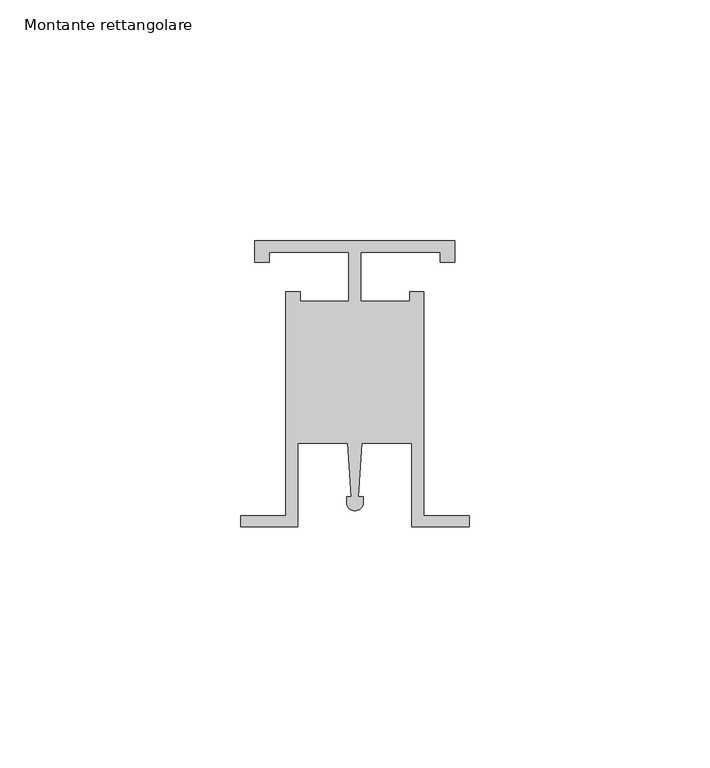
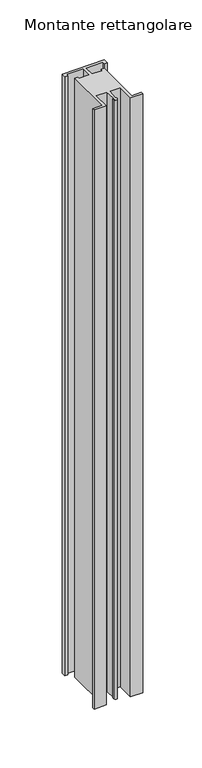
"""IFC4 building model written with IfcOpenShell, lengths in millimetres: member geometry, Montante rettangolare : Verde Profilo's Uprights."""

from ifc_helpers import new_model, si_unit, point, frame, frame_2d, origin, place, context, project, spatial, polyline, circle_curve, trimmed, segment, composite_curve, outline, extrude, source, transform, mapped, element, save


def montante_rettangolare_38dc3529(model_context):
    return source(origin(), model_context, "Body", "SweptSolid", [
        extrude(outline(composite_curve([segment(polyline([(-20.7595941, 0.0), (20.7595941, 0.0), (20.7595941, -4.4643434), (17.7832659, -4.4643434), (17.7832659, -2.4801246), (1.24037, -2.4801246), (1.24037, -12.5992217), (11.3587923, -12.5992217), (11.3587923, -10.6150029), (14.3351204, -10.6150029), (14.3351204, -57.1992491), (23.7595941, -57.1992491), (23.7595941, -59.5229914), (11.8549958, -59.5229914), (11.8549958, -42.1200913), (1.4717512, -42.1200913), (0.7440374, -53.2310496), (1.7376604, -53.2310496), (1.7376604, -54.4070013)]), True, "CONTINUOUS"), segment(trimmed(circle_curve(frame_2d((0.0, -54.4070013)), 1.7376604), [point((1.7376604, -54.4070013))], [point((-1.7376604, -54.4070013))], False, "CARTESIAN"), True, "CONTINUOUS"), segment(polyline([(-1.7376604, -54.4070013), (-1.7376604, -53.2310496), (-0.7440374, -53.2310496), (-1.4717512, -42.1200913), (-11.8549958, -42.1200913), (-11.8549958, -59.5229914), (-23.7595941, -59.5229914), (-23.7595941, -57.1992491), (-14.3351204, -57.1992491), (-14.3351204, -10.6150029), (-11.3587923, -10.6150029), (-11.3587923, -12.5992217), (-1.24037, -12.5992217), (-1.24037, -2.4801246), (-17.7832659, -2.4801246), (-17.7832659, -4.4643434), (-20.7595941, -4.4643434), (-20.7595941, 0.0)]), True, "CONTINUOUS")], self_intersect=False)), frame((0.0, 0.0, -620.0), z_axis=(0.0, 0.0, 1.0), x_axis=(1.0, 0.0, 0.0)), (0.0, 0.0, 1.0), 620.0),
    ])


if __name__ == "__main__":
    model = new_model("IFC4")
    model_context = context("Model", 3, world=origin())
    ifc_project = project(units=[si_unit("LENGTHUNIT", "METRE", prefix="MILLI")], contexts=[model_context])
    site = spatial("IfcSite", under=ifc_project)
    building = spatial("IfcBuilding", under=site)
    placement = place(None, origin())
    montante_rettangolare_shape = montante_rettangolare_38dc3529(model_context)
    element("IfcMember", 1, ObjectType="Montante rettangolare : Verde Profilo's Uprights", at=placement, inside=building, context=model_context, shape_type="MappedRepresentation", body=[
        mapped(montante_rettangolare_shape, transform((0.0, 0.0, 0.0), x_axis=(1.0, 0.0, 0.0), y_axis=(0.0, 1.0, 0.0), z_axis=(0.0, 0.0, 1.0))),
    ])
    save(model, "model.ifc")
